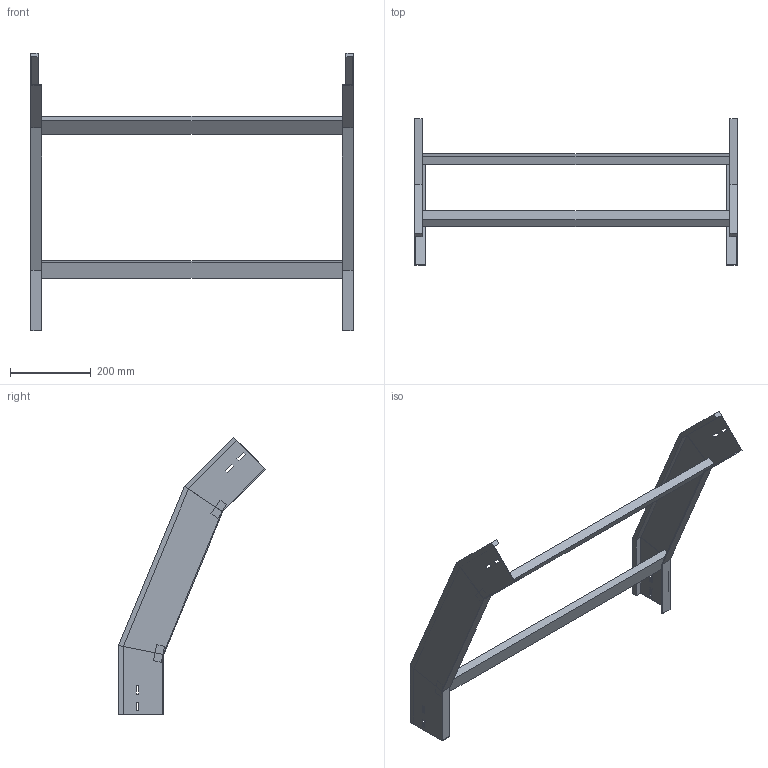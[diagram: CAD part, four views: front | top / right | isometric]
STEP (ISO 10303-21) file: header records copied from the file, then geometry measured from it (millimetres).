
FILE_DESCRIPTION (( 'STEP AP214' ), '1' );
FILE_NAME ('34B5J800.step', '2025-02-21T14:52:57', ( '' ), ( '' ), 'SwSTEP 2.0', 'SolidWorks 2023', '' );
FILE_SCHEMA (( 'AUTOMOTIVE_DESIGN' ));
Length unit declared in the file: millimetre
Products named in the file (3): TRAVERSINO_800; LONGH.DISCESA_45°_H112.5_R500; 34B5J800
Assembly tree (5 placements, depth 2):
  34B5J800
    LONGH.DISCESA_45°_H112.5_R500  x2
    TRAVERSINO_800  x3
Bounding box: 800 x 365.13 x 689.46 mm (x, y, z)
Volume: 2622496.3 mm3; surface area: 744966.6 mm2
Topology: 5 solids, 5 shells, 102 faces, 244 edges, 152 vertices
Faces by surface type: plane 102
Entity records: 1480 total; most frequent: CARTESIAN_POINT 244, ORIENTED_EDGE 232, DIRECTION 228, VECTOR 116, EDGE_CURVE 116, LINE 116, VERTEX_POINT 72, AXIS2_PLACEMENT_3D 56
